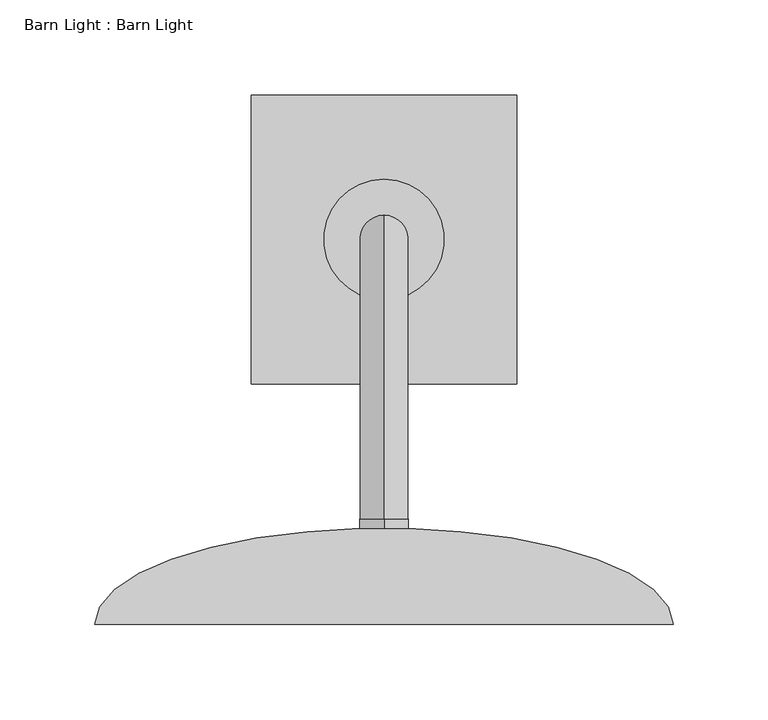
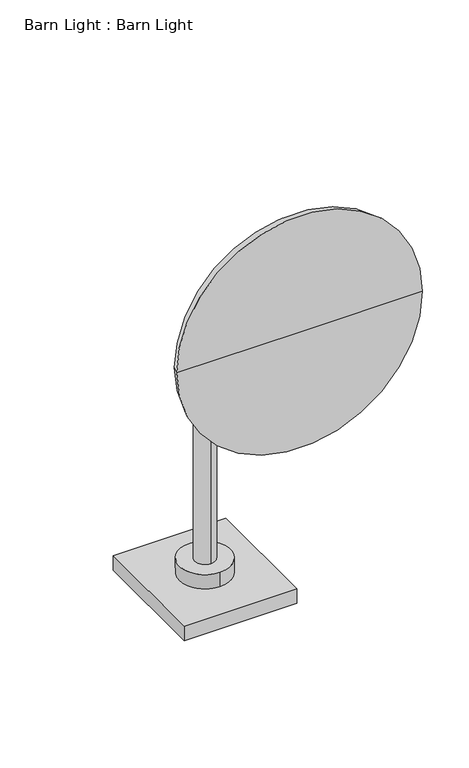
"""IFC4 building model written with IfcOpenShell, lengths in millimetres: light fixture geometry, Barn Light : Barn Light."""

from ifc_helpers import new_model, si_unit, point, frame, frame_2d, origin, origin_with_axes, place, context, project, spatial, polyline, circle_curve, ellipse_curve, trimmed, segment, composite_curve, outline, extrude, source, transform, mapped, element, save
from ifc_brep_helpers import plane_surface, cylinder_surface, revolved_surface, advanced_brep


def barn_light_barn_light_90f81144(model_context):
    return source(origin(), model_context, "Body", "SolidModel", [
        advanced_brep(
        [(0.0, 190.5, 38.1), (0.0, 215.9, 38.1), (0.0, 190.5, 309.6122128), (0.0, 215.9, 309.6122128), (0.0, 55.6122128, 444.5), (0.0, 55.6122128, 469.9), (0.0, 50.6243163, 444.5), (-12.7, 50.6243163, 457.2), (0.0, 50.6243163, 469.9), (12.7, 50.6243163, 457.2), (0.0, 0.0, 457.2), (-152.4, 0.0, 457.2), (152.4, 0.0, 457.2)],
        [
            (0, 1, circle_curve(frame((0.0, 203.2, 38.1), z_axis=(0.0, 0.0, -1.0), x_axis=(0.0, 1.0, 0.0)), 12.7)),
            (1, 0, circle_curve(frame((0.0, 203.2, 38.1), z_axis=(0.0, 0.0, -1.0), x_axis=(0.0, 1.0, 0.0)), 12.7)),
            (0, 2),
            (2, 3, circle_curve(frame((0.0, 203.2, 309.6122128), z_axis=(0.0, 0.0, -1.0), x_axis=(0.0, 1.0, 0.0)), 12.7)),
            (3, 1),
            (3, 2, circle_curve(frame((0.0, 203.2, 309.6122128), z_axis=(0.0, 0.0, -1.0), x_axis=(0.0, 1.0, 0.0)), 12.7)),
            (2, 4, circle_curve(frame((0.0, 55.6122128, 309.6122128), z_axis=(1.0, 0.0, 0.0), x_axis=(0.0, 1.0, 0.0)), 134.8877872)),
            (4, 5, circle_curve(frame((0.0, 55.6122128, 457.2), z_axis=(0.0, 1.0, 0.0), x_axis=(0.0, 0.0, 1.0)), 12.7)),
            (5, 3, circle_curve(frame((0.0, 55.6122128, 309.6122128), z_axis=(-1.0, 0.0, 0.0), x_axis=(0.0, 1.0, 0.0)), 160.2877872)),
            (5, 4, circle_curve(frame((0.0, 55.6122128, 457.2), z_axis=(0.0, 1.0, 0.0), x_axis=(0.0, 0.0, 1.0)), 12.7)),
            (4, 6),
            (6, 7, circle_curve(frame((0.0, 50.6243163, 457.2), z_axis=(0.0, 1.0, 0.0), x_axis=(0.0, 0.0, 1.0)), 12.7)),
            (7, 8, circle_curve(frame((0.0, 50.6243163, 457.2), z_axis=(0.0, 1.0, 0.0), x_axis=(0.0, 0.0, 1.0)), 12.7)),
            (8, 5),
            (8, 9, circle_curve(frame((0.0, 50.6243163, 457.2), z_axis=(0.0, 1.0, 0.0), x_axis=(0.0, 0.0, 1.0)), 12.7)),
            (9, 6, circle_curve(frame((0.0, 50.6243163, 457.2), z_axis=(0.0, 1.0, 0.0), x_axis=(0.0, 0.0, 1.0)), 12.7)),
            (10, 11),
            (11, 12, circle_curve(frame((0.0, 0.0, 457.2), z_axis=(0.0, -1.0, 0.0), x_axis=(-1.0, 0.0, 0.0)), 152.4)),
            (12, 10),
            (12, 11, circle_curve(frame((0.0, 0.0, 457.2), z_axis=(0.0, -1.0, 0.0), x_axis=(-1.0, 0.0, 0.0)), 152.4)),
            (11, 7, ellipse_curve(frame((0.0, 0.0, 457.2), z_axis=(0.0, 0.0, -1.0), x_axis=(1.0, 0.0, 0.0)), 152.4, 50.801016)),
            (9, 12, ellipse_curve(frame((0.0, 0.0, 457.2), z_axis=(0.0, 0.0, -1.0), x_axis=(-1.0, 0.0, 0.0)), 152.4, 50.801016)),
        ],
        [
            plane_surface(frame((0.0, 203.2, 38.1), z_axis=(0.0, 0.0, -1.0), x_axis=(-1.0, 0.0, 0.0))),
            cylinder_surface(frame((0.0, 203.2, 38.1), z_axis=(0.0, 0.0, -1.0), x_axis=(0.0, 1.0, 0.0)), 12.7),
            revolved_surface(trimmed(ellipse_curve(frame((0.0, 203.2, 309.6122128), z_axis=(0.0, 0.0, -1.0), x_axis=(0.0, 1.0, 0.0)), 12.7, 12.7), [point((0.0, 190.5, 309.6122128))], [point((0.0, 215.9, 309.6122128))], True, "CARTESIAN"), (0.0, 55.6122128, 309.6122128), (1.0, 0.0, 0.0)),
            revolved_surface(trimmed(ellipse_curve(frame((0.0, 203.2, 309.6122128), z_axis=(0.0, 0.0, -1.0), x_axis=(0.0, 1.0, 0.0)), 12.7, 12.7), [point((0.0, 215.9, 309.6122128))], [point((0.0, 190.5, 309.6122128))], True, "CARTESIAN"), (0.0, 55.6122128, 309.6122128), (1.0, 0.0, 0.0)),
            cylinder_surface(frame((0.0, 55.6122128, 457.2), z_axis=(0.0, 1.0, 0.0), x_axis=(0.0, 0.0, 1.0)), 12.7),
            plane_surface(frame((0.0, 0.0, 457.2), z_axis=(0.0, -1.0, 0.0), x_axis=(-1.0, 0.0, 0.0))),
            revolved_surface(trimmed(ellipse_curve(frame((0.0, 0.0, 457.2), z_axis=(0.0, 0.0, 1.0), x_axis=(1.0, 0.0, 0.0)), 152.4, 50.801016), [point((0.0, 50.801016, 457.2))], [point((-152.4, 0.0, 457.2))], True, "CARTESIAN"), (0.0, 0.0, 457.2), (0.0, -1.0, 0.0)),
        ],
        [
            (0, [[1, 2]]),
            (1, [[-1, 3, 4, 5]]),
            (1, [[-2, -5, 6, -3]]),
            (2, [[-4, 7, 8, 9]]),
            (3, [[-6, -9, 10, -7]]),
            (4, [[-8, 11, 12, 13, 14]]),
            (4, [[-10, -14, 15, 16, -11]]),
            (5, [[17, 18, 19]]),
            (5, [[-17, -19, 20]]),
            (6, [[-18, 21, -12, -16, 22]]),
            (6, [[-20, -22, -15, -13, -21]]),
        ],
    ),
        extrude(outline(polyline([(69.85, 279.4), (69.85, 127.0), (-69.85, 127.0), (-69.85, 279.4), (69.85, 279.4)])), origin_with_axes(), (0.0, 0.0, 1.0), 19.05),
        extrude(outline(composite_curve([segment(trimmed(circle_curve(frame_2d((0.0, 203.2)), 31.75), [point((0.0, 171.45))], [point((0.0, 234.95))], False, "CARTESIAN"), True, "CONTINUOUS"), segment(trimmed(circle_curve(frame_2d((0.0, 203.2)), 31.75), [point((0.0, 234.95))], [point((0.0, 171.45))], False, "CARTESIAN"), True, "CONTINUOUS")], self_intersect=False)), frame((0.0, 0.0, 19.05), z_axis=(0.0, 0.0, 1.0), x_axis=(1.0, 0.0, 0.0)), (0.0, 0.0, 1.0), 19.05),
    ])


if __name__ == "__main__":
    model = new_model("IFC4")
    model_context = context("Model", 3, world=origin())
    ifc_project = project(units=[si_unit("LENGTHUNIT", "METRE", prefix="MILLI")], contexts=[model_context])
    site = spatial("IfcSite", under=ifc_project)
    building = spatial("IfcBuilding", under=site)
    placement = place(None, origin())
    barn_light_barn_light_shape = barn_light_barn_light_90f81144(model_context)
    element("IfcLightFixture", 1, ObjectType="Barn Light : Barn Light", at=placement, inside=building, context=model_context, shape_type="MappedRepresentation", body=[
        mapped(barn_light_barn_light_shape, transform((0.0, 0.0, 0.0), x_axis=(1.0, 0.0, 0.0), y_axis=(0.0, 1.0, 0.0), z_axis=(0.0, 0.0, 1.0))),
    ])
    save(model, "model.ifc")
